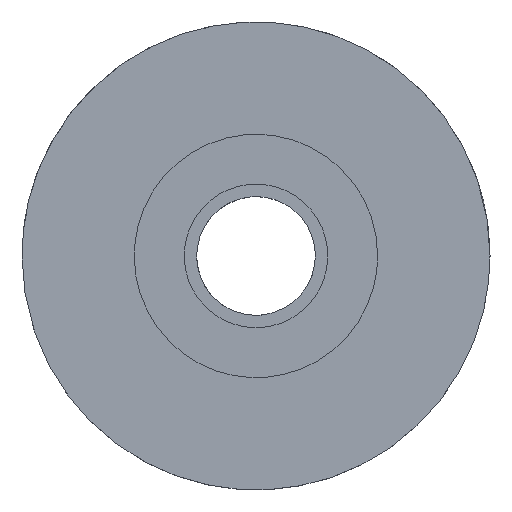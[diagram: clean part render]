
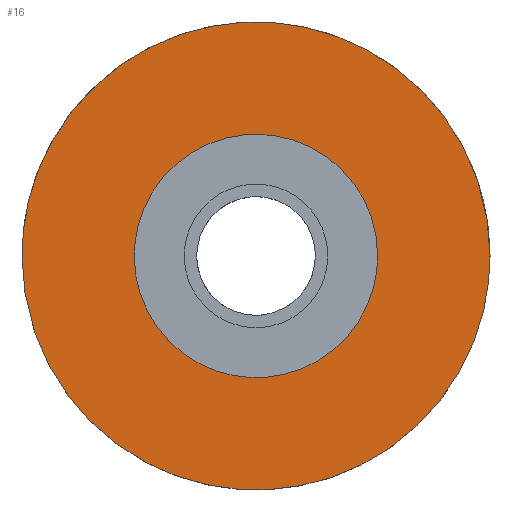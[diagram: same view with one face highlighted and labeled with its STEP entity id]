
A CAD part, top view. The second image highlights one B-rep face of the part: STEP entity #16.
In plain terms, the highlighted free-form (B-spline) face has degree [1, 1] with [2, 2] control points.
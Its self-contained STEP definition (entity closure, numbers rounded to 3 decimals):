
#16=ADVANCED_FACE('',(#28,#24),#216,.T.);
#24=FACE_BOUND('',#39,.T.);
#28=FACE_OUTER_BOUND('',#38,.T.);
#38=EDGE_LOOP('',(#51,#52));
#39=EDGE_LOOP('',(#53));
#51=ORIENTED_EDGE('',*,*,#164,.T.);
#52=ORIENTED_EDGE('',*,*,#165,.T.);
#53=ORIENTED_EDGE('',*,*,#160,.F.);
#77=B_SPLINE_CURVE_WITH_KNOTS('',1,(#487,#488),.UNSPECIFIED.,.F.,.F.,(2,
2),(117.81,235.619),.UNSPECIFIED.);
#82=B_SPLINE_CURVE_WITH_KNOTS('',1,(#536,#537),.UNSPECIFIED.,.F.,.F.,(2,
2),(0.,117.81),.UNSPECIFIED.);
#90=PCURVE('',#214,#118);
#95=PCURVE('',#216,#123);
#96=PCURVE('',#216,#124);
#97=PCURVE('',#216,#125);
#101=PCURVE('',#210,#129);
#110=PCURVE('',#212,#138);
#118=DEFINITIONAL_REPRESENTATION('',(#175),#553);
#123=DEFINITIONAL_REPRESENTATION('',(#184),#553);
#124=DEFINITIONAL_REPRESENTATION('',(#186),#553);
#125=DEFINITIONAL_REPRESENTATION('',(#187),#553);
#129=DEFINITIONAL_REPRESENTATION('',(#77),#553);
#138=DEFINITIONAL_REPRESENTATION('',(#82),#553);
#146=SURFACE_CURVE('',#174,(#90,#97),.PCURVE_S1.);
#150=SURFACE_CURVE('',#183,(#95,#110),.PCURVE_S1.);
#151=SURFACE_CURVE('',#185,(#96,#101),.PCURVE_S1.);
#160=EDGE_CURVE('',#200,#200,#146,.T.);
#164=EDGE_CURVE('',#203,#206,#150,.T.);
#165=EDGE_CURVE('',#206,#203,#151,.T.);
#174=(
BOUNDED_CURVE()
B_SPLINE_CURVE(2,(#378,#379,#380,#381,#382,#383,#384,#385,#386),
 .UNSPECIFIED.,.T.,.F.)
B_SPLINE_CURVE_WITH_KNOTS((3,2,2,2,3),(0.,30.631,61.261,
91.892,122.522),.UNSPECIFIED.)
CURVE()
GEOMETRIC_REPRESENTATION_ITEM()
RATIONAL_B_SPLINE_CURVE((1.,0.707,1.,0.707,1.,0.707,
1.,0.707,1.))
REPRESENTATION_ITEM('')
);
#175=(
BOUNDED_CURVE()
B_SPLINE_CURVE(2,(#387,#388,#389,#390,#391,#392,#393,#394,#395),
 .UNSPECIFIED.,.T.,.F.)
B_SPLINE_CURVE_WITH_KNOTS((3,2,2,2,3),(0.,30.631,61.261,
91.892,122.522),.UNSPECIFIED.)
CURVE()
GEOMETRIC_REPRESENTATION_ITEM()
RATIONAL_B_SPLINE_CURVE((1.,0.707,1.,0.707,1.,0.707,
1.,0.707,1.))
REPRESENTATION_ITEM('')
);
#183=(
BOUNDED_CURVE()
B_SPLINE_CURVE(2,(#443,#444,#445,#446,#447),.UNSPECIFIED.,.F.,.F.)
B_SPLINE_CURVE_WITH_KNOTS((3,2,3),(0.,58.905,117.81),
 .UNSPECIFIED.)
CURVE()
GEOMETRIC_REPRESENTATION_ITEM()
RATIONAL_B_SPLINE_CURVE((1.,0.707,1.,0.707,1.))
REPRESENTATION_ITEM('')
);
#184=(
BOUNDED_CURVE()
B_SPLINE_CURVE(2,(#448,#449,#450,#451,#452),.UNSPECIFIED.,.F.,.F.)
B_SPLINE_CURVE_WITH_KNOTS((3,2,3),(0.,58.905,117.81),
 .UNSPECIFIED.)
CURVE()
GEOMETRIC_REPRESENTATION_ITEM()
RATIONAL_B_SPLINE_CURVE((1.,0.707,1.,0.707,1.))
REPRESENTATION_ITEM('')
);
#185=(
BOUNDED_CURVE()
B_SPLINE_CURVE(2,(#453,#454,#455,#456,#457),.UNSPECIFIED.,.F.,.F.)
B_SPLINE_CURVE_WITH_KNOTS((3,2,3),(117.81,176.715,235.619),
 .UNSPECIFIED.)
CURVE()
GEOMETRIC_REPRESENTATION_ITEM()
RATIONAL_B_SPLINE_CURVE((1.,0.707,1.,0.707,1.))
REPRESENTATION_ITEM('')
);
#186=(
BOUNDED_CURVE()
B_SPLINE_CURVE(2,(#458,#459,#460,#461,#462),.UNSPECIFIED.,.F.,.F.)
B_SPLINE_CURVE_WITH_KNOTS((3,2,3),(117.81,176.715,235.619),
 .UNSPECIFIED.)
CURVE()
GEOMETRIC_REPRESENTATION_ITEM()
RATIONAL_B_SPLINE_CURVE((1.,0.707,1.,0.707,1.))
REPRESENTATION_ITEM('')
);
#187=(
BOUNDED_CURVE()
B_SPLINE_CURVE(2,(#463,#464,#465,#466,#467,#468,#469,#470,#471),
 .UNSPECIFIED.,.T.,.F.)
B_SPLINE_CURVE_WITH_KNOTS((3,2,2,2,3),(0.,30.631,61.261,
91.892,122.522),.UNSPECIFIED.)
CURVE()
GEOMETRIC_REPRESENTATION_ITEM()
RATIONAL_B_SPLINE_CURVE((1.,0.707,1.,0.707,1.,0.707,
1.,0.707,1.))
REPRESENTATION_ITEM('')
);
#200=VERTEX_POINT('',#368);
#203=VERTEX_POINT('',#371);
#206=VERTEX_POINT('',#374);
#210=(
BOUNDED_SURFACE()
B_SPLINE_SURFACE(2,1,((#324,#325),(#326,#327),(#328,#329),(#330,#331),(#332,
#333)),.UNSPECIFIED.,.F.,.F.,.F.)
B_SPLINE_SURFACE_WITH_KNOTS((3,2,3),(2,2),(-235.619,-176.715,
-117.81),(0.,10.),.UNSPECIFIED.)
GEOMETRIC_REPRESENTATION_ITEM()
RATIONAL_B_SPLINE_SURFACE(((1.,1.),(0.707,0.707),
(1.,1.),(0.707,0.707),(1.,1.)))
REPRESENTATION_ITEM('')
SURFACE()
);
#212=(
BOUNDED_SURFACE()
B_SPLINE_SURFACE(2,1,((#348,#349),(#350,#351),(#352,#353),(#354,#355),(#356,
#357)),.UNSPECIFIED.,.F.,.F.,.F.)
B_SPLINE_SURFACE_WITH_KNOTS((3,2,3),(2,2),(-117.81,-58.905,
0.),(0.,10.),.UNSPECIFIED.)
GEOMETRIC_REPRESENTATION_ITEM()
RATIONAL_B_SPLINE_SURFACE(((1.,1.),(0.707,0.707),
(1.,1.),(0.707,0.707),(1.,1.)))
REPRESENTATION_ITEM('')
SURFACE()
);
#214=B_SPLINE_SURFACE_WITH_KNOTS('',1,1,((#312,#313),(#314,#315)),
 .UNSPECIFIED.,.F.,.F.,.F.,(2,2),(2,2),(-46.875,46.875),(-9.375,84.375),
 .UNSPECIFIED.);
#216=B_SPLINE_SURFACE_WITH_KNOTS('',1,1,((#320,#321),(#322,#323)),
 .UNSPECIFIED.,.F.,.F.,.F.,(2,2),(2,2),(-46.875,46.875),(-9.375,84.375),
 .UNSPECIFIED.);
#312=CARTESIAN_POINT('',(46.875,-46.875,0.));
#313=CARTESIAN_POINT('',(-46.875,-46.875,0.));
#314=CARTESIAN_POINT('',(46.875,46.875,0.));
#315=CARTESIAN_POINT('',(-46.875,46.875,0.));
#320=CARTESIAN_POINT('',(46.875,-46.875,0.));
#321=CARTESIAN_POINT('',(-46.875,-46.875,0.));
#322=CARTESIAN_POINT('',(46.875,46.875,0.));
#323=CARTESIAN_POINT('',(-46.875,46.875,0.));
#324=CARTESIAN_POINT('',(37.5,0.,0.));
#325=CARTESIAN_POINT('',(37.5,0.,-10.));
#326=CARTESIAN_POINT('',(37.5,-37.5,0.));
#327=CARTESIAN_POINT('',(37.5,-37.5,-10.));
#328=CARTESIAN_POINT('',(0.,-37.5,0.));
#329=CARTESIAN_POINT('',(0.,-37.5,-10.));
#330=CARTESIAN_POINT('',(-37.5,-37.5,0.));
#331=CARTESIAN_POINT('',(-37.5,-37.5,-10.));
#332=CARTESIAN_POINT('',(-37.5,0.,0.));
#333=CARTESIAN_POINT('',(-37.5,0.,-10.));
#348=CARTESIAN_POINT('',(-37.5,0.,0.));
#349=CARTESIAN_POINT('',(-37.5,0.,-10.));
#350=CARTESIAN_POINT('',(-37.5,37.5,0.));
#351=CARTESIAN_POINT('',(-37.5,37.5,-10.));
#352=CARTESIAN_POINT('',(0.,37.5,0.));
#353=CARTESIAN_POINT('',(0.,37.5,-10.));
#354=CARTESIAN_POINT('',(37.5,37.5,0.));
#355=CARTESIAN_POINT('',(37.5,37.5,-10.));
#356=CARTESIAN_POINT('',(37.5,0.,0.));
#357=CARTESIAN_POINT('',(37.5,0.,-10.));
#368=CARTESIAN_POINT('',(19.5,0.,0.));
#371=CARTESIAN_POINT('',(37.5,0.,0.));
#374=CARTESIAN_POINT('',(-37.5,0.,0.));
#378=CARTESIAN_POINT('',(19.5,0.,0.));
#379=CARTESIAN_POINT('',(19.5,19.5,0.));
#380=CARTESIAN_POINT('',(0.,19.5,0.));
#381=CARTESIAN_POINT('',(-19.5,19.5,0.));
#382=CARTESIAN_POINT('',(-19.5,0.,0.));
#383=CARTESIAN_POINT('',(-19.5,-19.5,0.));
#384=CARTESIAN_POINT('',(0.,-19.5,0.));
#385=CARTESIAN_POINT('',(19.5,-19.5,0.));
#386=CARTESIAN_POINT('',(19.5,0.,0.));
#387=CARTESIAN_POINT('',(0.,18.));
#388=CARTESIAN_POINT('',(19.5,18.));
#389=CARTESIAN_POINT('',(19.5,37.5));
#390=CARTESIAN_POINT('',(19.5,57.));
#391=CARTESIAN_POINT('',(0.,57.));
#392=CARTESIAN_POINT('',(-19.5,57.));
#393=CARTESIAN_POINT('',(-19.5,37.5));
#394=CARTESIAN_POINT('',(-19.5,18.));
#395=CARTESIAN_POINT('',(0.,18.));
#443=CARTESIAN_POINT('',(37.5,0.,0.));
#444=CARTESIAN_POINT('',(37.5,37.5,0.));
#445=CARTESIAN_POINT('',(0.,37.5,0.));
#446=CARTESIAN_POINT('',(-37.5,37.5,0.));
#447=CARTESIAN_POINT('',(-37.5,0.,0.));
#448=CARTESIAN_POINT('',(0.,0.));
#449=CARTESIAN_POINT('',(37.5,0.));
#450=CARTESIAN_POINT('',(37.5,37.5));
#451=CARTESIAN_POINT('',(37.5,75.));
#452=CARTESIAN_POINT('',(0.,75.));
#453=CARTESIAN_POINT('',(-37.5,0.,0.));
#454=CARTESIAN_POINT('',(-37.5,-37.5,0.));
#455=CARTESIAN_POINT('',(0.,-37.5,0.));
#456=CARTESIAN_POINT('',(37.5,-37.5,0.));
#457=CARTESIAN_POINT('',(37.5,0.,0.));
#458=CARTESIAN_POINT('',(0.,75.));
#459=CARTESIAN_POINT('',(-37.5,75.));
#460=CARTESIAN_POINT('',(-37.5,37.5));
#461=CARTESIAN_POINT('',(-37.5,0.));
#462=CARTESIAN_POINT('',(0.,0.));
#463=CARTESIAN_POINT('',(0.,18.));
#464=CARTESIAN_POINT('',(19.5,18.));
#465=CARTESIAN_POINT('',(19.5,37.5));
#466=CARTESIAN_POINT('',(19.5,57.));
#467=CARTESIAN_POINT('',(0.,57.));
#468=CARTESIAN_POINT('',(-19.5,57.));
#469=CARTESIAN_POINT('',(-19.5,37.5));
#470=CARTESIAN_POINT('',(-19.5,18.));
#471=CARTESIAN_POINT('',(0.,18.));
#487=CARTESIAN_POINT('',(-117.81,0.));
#488=CARTESIAN_POINT('',(-235.619,0.));
#536=CARTESIAN_POINT('',(0.,0.));
#537=CARTESIAN_POINT('',(-117.81,0.));
#553=(
GEOMETRIC_REPRESENTATION_CONTEXT(2)
PARAMETRIC_REPRESENTATION_CONTEXT()
REPRESENTATION_CONTEXT('pspace','')
);
